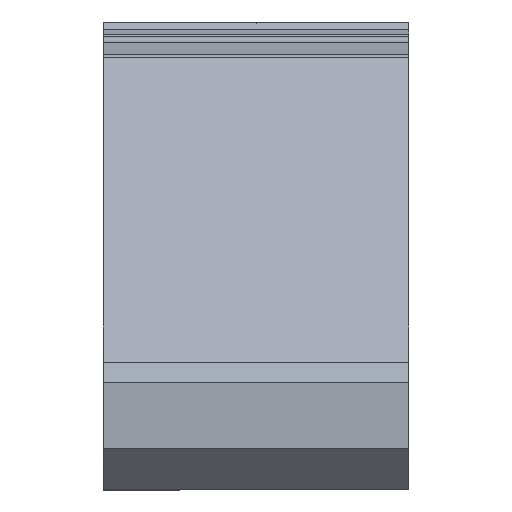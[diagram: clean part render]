
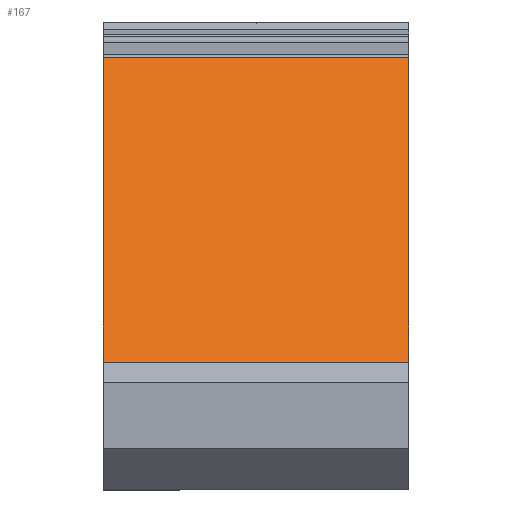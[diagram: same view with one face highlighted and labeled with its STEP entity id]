
A CAD part, top view. The second image highlights one B-rep face of the part: STEP entity #167.
In plain terms, the highlighted planar face has unit normal (0, 0.489, 0.872).
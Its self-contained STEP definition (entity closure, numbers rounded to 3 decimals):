
#18 = VERTEX_POINT ( 'NONE', #635 ) ;
#35 = CARTESIAN_POINT ( 'NONE',  ( -15., -32.334, 45.07 ) ) ;
#56 = VECTOR ( 'NONE', #201, 1000. ) ;
#114 = VECTOR ( 'NONE', #478, 1000. ) ;
#155 = CARTESIAN_POINT ( 'NONE',  ( 15., -2.005, 28.043 ) ) ;
#167 = ADVANCED_FACE ( 'NONE', ( #1387 ), #889, .T. ) ;
#201 = DIRECTION ( 'NONE',  ( 1., 0., 0. ) ) ;
#224 = LINE ( 'NONE', #560, #1236 ) ;
#244 = ORIENTED_EDGE ( 'NONE', *, *, #942, .T. ) ;
#251 = LINE ( 'NONE', #646, #56 ) ;
#269 = VECTOR ( 'NONE', #908, 1000. ) ;
#327 = DIRECTION ( 'NONE',  ( 0., -0.872, 0.49 ) ) ;
#360 = VERTEX_POINT ( 'NONE', #1011 ) ;
#379 = EDGE_CURVE ( 'NONE', #360, #1018, #1089, .T. ) ;
#393 = EDGE_LOOP ( 'NONE', ( #395, #244, #1017, #697 ) ) ;
#395 = ORIENTED_EDGE ( 'NONE', *, *, #1249, .T. ) ;
#478 = DIRECTION ( 'NONE',  ( 0., -0.872, 0.49 ) ) ;
#557 = LINE ( 'NONE', #155, #269 ) ;
#560 = CARTESIAN_POINT ( 'NONE',  ( 15., -2.005, 28.043 ) ) ;
#628 = VERTEX_POINT ( 'NONE', #1215 ) ;
#635 = CARTESIAN_POINT ( 'NONE',  ( 15., -32.334, 45.07 ) ) ;
#646 = CARTESIAN_POINT ( 'NONE',  ( 15., -32.334, 45.07 ) ) ;
#697 = ORIENTED_EDGE ( 'NONE', *, *, #838, .T. ) ;
#790 = CARTESIAN_POINT ( 'NONE',  ( -15., -2.005, 28.043 ) ) ;
#838 = EDGE_CURVE ( 'NONE', #1018, #18, #251, .T. ) ;
#889 = PLANE ( 'NONE',  #1125 ) ;
#908 = DIRECTION ( 'NONE',  ( 0., 0.872, -0.49 ) ) ;
#942 = EDGE_CURVE ( 'NONE', #628, #360, #224, .T. ) ;
#972 = DIRECTION ( 'NONE',  ( -1., 0., 0. ) ) ;
#1011 = CARTESIAN_POINT ( 'NONE',  ( -15., -2.005, 28.043 ) ) ;
#1017 = ORIENTED_EDGE ( 'NONE', *, *, #379, .T. ) ;
#1018 = VERTEX_POINT ( 'NONE', #35 ) ;
#1089 = LINE ( 'NONE', #790, #114 ) ;
#1125 = AXIS2_PLACEMENT_3D ( 'NONE', #1193, #1144, #327 ) ;
#1144 = DIRECTION ( 'NONE',  ( 0., 0.49, 0.872 ) ) ;
#1193 = CARTESIAN_POINT ( 'NONE',  ( 15., -2.005, 28.043 ) ) ;
#1215 = CARTESIAN_POINT ( 'NONE',  ( 15., -2.005, 28.043 ) ) ;
#1236 = VECTOR ( 'NONE', #972, 1000. ) ;
#1249 = EDGE_CURVE ( 'NONE', #18, #628, #557, .T. ) ;
#1387 = FACE_OUTER_BOUND ( 'NONE', #393, .T. ) ;
